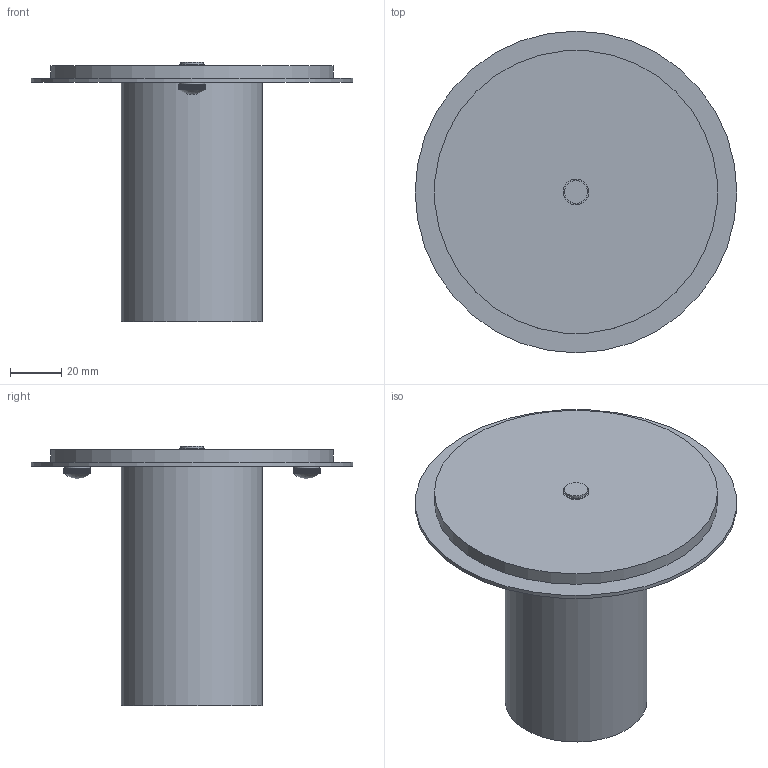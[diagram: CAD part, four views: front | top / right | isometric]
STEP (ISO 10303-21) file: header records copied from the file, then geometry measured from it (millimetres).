
FILE_DESCRIPTION(/* description */ (''),/* implementation_level */ '2;1');
FILE_NAME(/* name */ '260910_B_B795.stp',/* time_stamp */ '2026-09-10T08:34:21+02:00',/* author */ ('Dominik'),/* organization */ (''),/* preprocessor_version */ 'ST-DEVELOPER v20.1',/* originating_system */ 'Autodesk Inventor 2027',/* authorisation */ '');
FILE_SCHEMA (('AUTOMOTIVE_DESIGN { 1 0 10303 214 3 1 1 }'));
Length unit declared in the file: millimetre
Products named in the file (1): B795 jako część
Bounding box: 125 x 125 x 100.8 mm (x, y, z)
Volume: 162176.4 mm3; surface area: 69844.4 mm2
Topology: 122 solids, 124 shells, 890 faces, 2002 edges, 1374 vertices
Faces by surface type: plane 860, cylinder 19, cone 6, sphere 2, torus 2, bspline 1
Full cylindrical faces by diameter (mm): 3 x2, 4 x2, 9 x1, 10 x4, 50 x3, 50.6 x1, 51 x3, 55 x1, 110 x1, 125 x1
Entity records: 26545 total; most frequent: CARTESIAN_POINT 4529, ORIENTED_EDGE 4240, DIRECTION 4075, EDGE_CURVE 2120, LINE 1945, VECTOR 1945, VERTEX_POINT 1492, AXIS2_PLACEMENT_3D 1065
